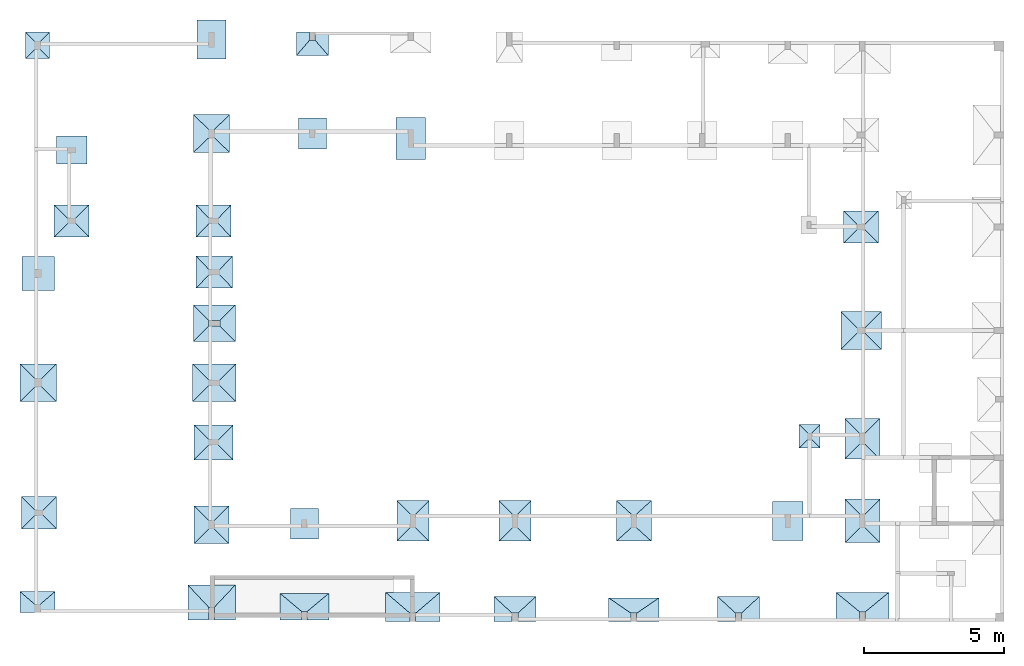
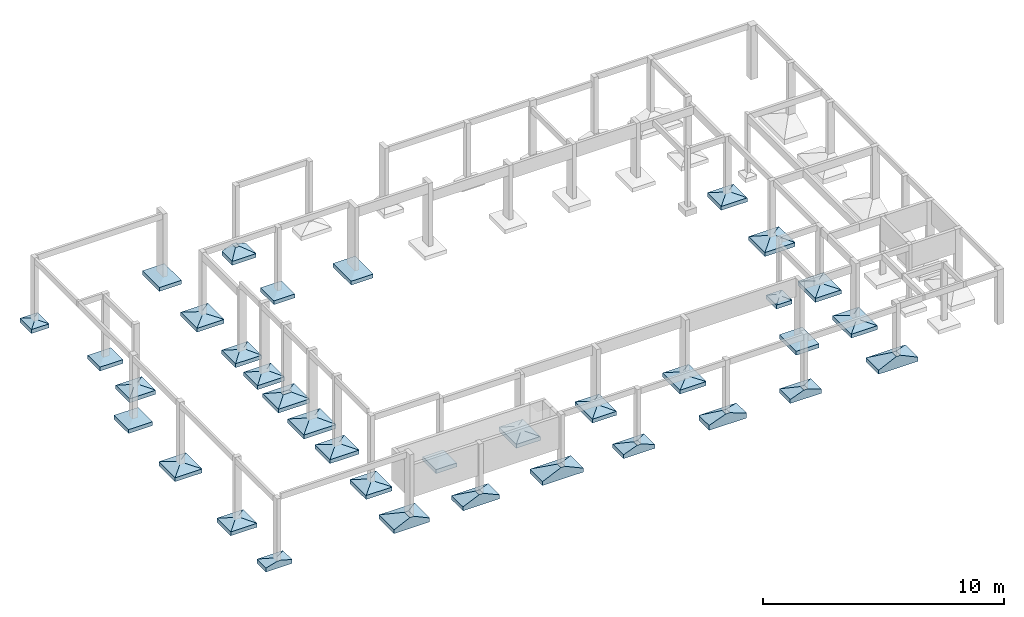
# One storey, part 4 of 5: 35 footings.
"""IFC4 building model written with IfcOpenShell, lengths in centimetres."""

from ifc_helpers import new_model, si_unit, derived_unit, frame, origin_with_axes, place, context, project, spatial, faceted_brep, material, element, save


model = new_model("IFC4")

# Units and contexts
model_context = context("Model", 3, precision=1e-05, world=origin_with_axes(), identifier="Body")
ifc_project = project(units=[si_unit("LENGTHUNIT", "METRE", prefix="CENTI"), si_unit("VOLUMEUNIT", "CUBIC_METRE"), si_unit("AREAUNIT", "SQUARE_METRE"), si_unit("POWERUNIT", "WATT"), si_unit("LUMINOUSFLUXUNIT", "LUMEN"), si_unit("ELECTRICCURRENTUNIT", "AMPERE"), si_unit("PRESSUREUNIT", "PASCAL", prefix="KILO"), si_unit("MASSUNIT", "GRAM", prefix="KILO"), si_unit("PLANEANGLEUNIT", "RADIAN"), derived_unit("VOLUMETRICFLOWRATEUNIT", [(si_unit("LENGTHUNIT", "METRE"), 3), (si_unit("TIMEUNIT", "SECOND"), -1)])], contexts=[model_context])

# Site, building, storey
site_placement = place(None, origin_with_axes())
site = spatial("IfcSite", under=ifc_project, at=site_placement)
building_placement = place(site_placement, frame((0.0, 0.0, -295.0)))
building = spatial("IfcBuilding", under=site, at=building_placement)
placement_1 = place(building_placement, origin_with_axes())
placement_2 = place(placement_1, frame((0.0, 0.0, 101.0), z_axis=(0.0, 0.0, 1.0), x_axis=(1.0, 0.0, 0.0)))
storey_placement = place(placement_2, frame((0.0, 0.0, 204.0), z_axis=(0.0, 0.0, 1.0), x_axis=(1.0, 0.0, 0.0)))
storey = spatial("IfcBuildingStorey", under=building, at=storey_placement, Name="TÉRREO", CompositionType="ELEMENT", Elevation=10.0)

# Footings
ifc_material = material(Name="Concreto")
footing_1_placement = place(storey_placement, frame((561.73, -5119.55, -320.0), z_axis=(0.0, 0.0, 1.0), x_axis=(1.0, 0.0, 0.0)))
element("IfcFooting", 1, at=footing_1_placement, inside=storey, material=ifc_material, Name="P1", PredefinedType="PAD_FOOTING", context=model_context, shape_type="SolidModel", body=[
    faceted_brep([(-42.5, 47.5, -30.0), (42.5, 47.5, -30.0), (42.5, -47.5, -30.0), (-42.5, -47.5, -30.0), (-42.5, -47.5, -10.0), (42.5, -47.5, -10.0), (42.5, 47.5, -10.0), (-42.5, 47.5, -10.0)], [[[0, 1, 2, 3]], [[4, 5, 6, 7]], [[4, 3, 5]], [[3, 2, 5]], [[5, 2, 6]], [[2, 1, 6]], [[6, 1, 7]], [[1, 0, 7]], [[7, 0, 4]], [[0, 3, 4]]]),
    faceted_brep([(-42.5, 47.5, -10.0), (42.5, 47.5, -10.0), (42.5, -47.5, -10.0), (-42.5, -47.5, -10.0), (-10.0, -15.0, 0.0), (10.0, -15.0, 0.0), (10.0, 15.0, 0.0), (-10.0, 15.0, 0.0)], [[[0, 1, 2, 3]], [[4, 5, 6, 7]], [[4, 3, 5]], [[3, 2, 5]], [[5, 2, 6]], [[2, 1, 6]], [[6, 1, 7]], [[1, 0, 7]], [[7, 0, 4]], [[0, 3, 4]]]),
])
footing_2_placement = place(storey_placement, frame((1183.9, -5434.69, -315.0), z_axis=(0.0, 0.0, 1.0), x_axis=(1.0, 0.0, 0.0)))
element("IfcFooting", 2, at=footing_2_placement, inside=storey, material=ifc_material, Name="P11", PredefinedType="PAD_FOOTING", context=model_context, shape_type="SolidModel", body=[
    faceted_brep([(-65.0, 67.5, -35.0), (65.0, 67.5, -35.0), (65.0, -67.5, -35.0), (-65.0, -67.5, -35.0), (-65.0, -67.5, -15.0), (65.0, -67.5, -15.0), (65.0, 67.5, -15.0), (-65.0, 67.5, -15.0)], [[[0, 1, 2, 3]], [[4, 5, 6, 7]], [[4, 3, 5]], [[3, 2, 5]], [[5, 2, 6]], [[2, 1, 6]], [[6, 1, 7]], [[1, 0, 7]], [[7, 0, 4]], [[0, 3, 4]]]),
    faceted_brep([(-65.0, 67.5, -15.0), (65.0, 67.5, -15.0), (65.0, -67.5, -15.0), (-65.0, -67.5, -15.0), (-10.0, -15.0, 0.0), (10.0, -15.0, 0.0), (10.0, 15.0, 0.0), (-10.0, 15.0, 0.0)], [[[0, 1, 2, 3]], [[4, 5, 6, 7]], [[4, 3, 5]], [[3, 2, 5]], [[5, 2, 6]], [[2, 1, 6]], [[6, 1, 7]], [[1, 0, 7]], [[7, 0, 4]], [[0, 3, 4]]]),
])
footing_3_placement = place(storey_placement, frame((1544.4, -5434.69, -320.0), z_axis=(0.0, 0.0, 1.0), x_axis=(1.0, 0.0, 0.0)))
element("IfcFooting", 3, at=footing_3_placement, inside=storey, material=ifc_material, Name="P12", PredefinedType="PAD_FOOTING", context=model_context, shape_type="SolidModel", body=[
    faceted_brep([(-50.0, 55.0, -30.0), (50.0, 55.0, -30.0), (50.0, -55.0, -30.0), (-50.0, -55.0, -30.0), (-50.0, -55.0, -10.0), (50.0, -55.0, -10.0), (50.0, 55.0, -10.0), (-50.0, 55.0, -10.0)], [[[0, 1, 2, 3]], [[4, 5, 6, 7]], [[4, 3, 5]], [[3, 2, 5]], [[5, 2, 6]], [[2, 1, 6]], [[6, 1, 7]], [[1, 0, 7]], [[7, 0, 4]], [[0, 3, 4]]]),
    faceted_brep([(-50.0, 55.0, -10.0), (50.0, 55.0, -10.0), (50.0, -55.0, -10.0), (-50.0, -55.0, -10.0), (-10.0, -15.0, 0.0), (10.0, -15.0, 0.0), (10.0, 15.0, 0.0), (-10.0, 15.0, 0.0)], [[[0, 1, 2, 3]], [[4, 5, 6, 7]], [[4, 3, 5]], [[3, 2, 5]], [[5, 2, 6]], [[2, 1, 6]], [[6, 1, 7]], [[1, 0, 7]], [[7, 0, 4]], [[0, 3, 4]]]),
])
footing_4_placement = place(storey_placement, frame((1895.85, -5452.19, -320.0), z_axis=(0.0, 0.0, 1.0), x_axis=(1.0, 0.0, 0.0)))
element("IfcFooting", 4, at=footing_4_placement, inside=storey, material=ifc_material, Name="P13", PredefinedType="PAD_FOOTING", context=model_context, shape_type="SolidModel", body=[
    faceted_brep([(-52.5, 75.0, -30.0), (52.5, 75.0, -30.0), (52.5, -75.0, -30.0), (-52.5, -75.0, -30.0), (-52.5, -75.0, -10.0), (52.5, -75.0, -10.0), (52.5, 75.0, -10.0), (-52.5, 75.0, -10.0)], [[[0, 1, 2, 3]], [[4, 5, 6, 7]], [[4, 3, 5]], [[3, 2, 5]], [[5, 2, 6]], [[2, 1, 6]], [[6, 1, 7]], [[1, 0, 7]], [[7, 0, 4]], [[0, 3, 4]]]),
    faceted_brep([(-52.5, 75.0, -10.0), (52.5, 75.0, -10.0), (52.5, -75.0, -10.0), (-52.5, -75.0, -10.0), (-10.0, -32.5, 0.0), (10.0, -32.5, 0.0), (10.0, 32.5, 0.0), (-10.0, 32.5, 0.0)], [[[0, 1, 2, 3]], [[4, 5, 6, 7]], [[4, 3, 5]], [[3, 2, 5]], [[5, 2, 6]], [[2, 1, 6]], [[6, 1, 7]], [[1, 0, 7]], [[7, 0, 4]], [[0, 3, 4]]]),
])
footing_5_placement = place(storey_placement, frame((1183.9, -5098.61, -320.0), z_axis=(0.0, 0.0, 1.0), x_axis=(1.0, 0.0, 0.0)))
element("IfcFooting", 5, at=footing_5_placement, inside=storey, material=ifc_material, Name="P2", PredefinedType="PAD_FOOTING", context=model_context, shape_type="SolidModel", body=[
    faceted_brep([(-52.5, 70.0, -30.0), (52.5, 70.0, -30.0), (52.5, -70.0, -30.0), (-52.5, -70.0, -30.0), (-52.5, -70.0, -10.0), (52.5, -70.0, -10.0), (52.5, 70.0, -10.0), (-52.5, 70.0, -10.0)], [[[0, 1, 2, 3]], [[4, 5, 6, 7]], [[4, 3, 5]], [[3, 2, 5]], [[5, 2, 6]], [[2, 1, 6]], [[6, 1, 7]], [[1, 0, 7]], [[7, 0, 4]], [[0, 3, 4]]]),
    faceted_brep([(-52.5, 70.0, -10.0), (52.5, 70.0, -10.0), (52.5, -70.0, -10.0), (-52.5, -70.0, -10.0), (-10.0, -27.5, 0.0), (10.0, -27.5, 0.0), (10.0, 27.5, 0.0), (-10.0, 27.5, 0.0)], [[[0, 1, 2, 3]], [[4, 5, 6, 7]], [[4, 3, 5]], [[3, 2, 5]], [[5, 2, 6]], [[2, 1, 6]], [[6, 1, 7]], [[1, 0, 7]], [[7, 0, 4]], [[0, 3, 4]]]),
])
footing_6_placement = place(storey_placement, frame((683.93, -5494.16, -320.0), z_axis=(0.0, 0.0, 1.0), x_axis=(1.0, 0.0, 0.0)))
element("IfcFooting", 6, at=footing_6_placement, inside=storey, material=ifc_material, Name="P20", PredefinedType="PAD_FOOTING", context=model_context, shape_type="SolidModel", body=[
    faceted_brep([(-55.0, -50.0, -30.0), (-55.0, 50.0, -30.0), (55.0, 50.0, -30.0), (55.0, -50.0, -30.0), (55.0, -50.0, -10.0), (55.0, 50.0, -10.0), (-55.0, 50.0, -10.0), (-55.0, -50.0, -10.0)], [[[0, 1, 2, 3]], [[4, 5, 6, 7]], [[4, 3, 5]], [[3, 2, 5]], [[5, 2, 6]], [[2, 1, 6]], [[6, 1, 7]], [[1, 0, 7]], [[7, 0, 4]], [[0, 3, 4]]]),
    faceted_brep([(-55.0, -50.0, -10.0), (-55.0, 50.0, -10.0), (55.0, 50.0, -10.0), (55.0, -50.0, -10.0), (15.0, -10.0, 0.0), (15.0, 10.0, 0.0), (-15.0, 10.0, 0.0), (-15.0, -10.0, 0.0)], [[[0, 1, 2, 3]], [[4, 5, 6, 7]], [[4, 3, 5]], [[3, 2, 5]], [[5, 2, 6]], [[2, 1, 6]], [[6, 1, 7]], [[1, 0, 7]], [[7, 0, 4]], [[0, 3, 4]]]),
])
footing_7_placement = place(storey_placement, frame((683.93, -5746.84, -315.0), z_axis=(0.0, 0.0, 1.0), x_axis=(1.0, 0.0, 0.0)))
element("IfcFooting", 7, at=footing_7_placement, inside=storey, material=ifc_material, Name="P22", PredefinedType="PAD_FOOTING", context=model_context, shape_type="SolidModel", body=[
    faceted_brep([(-62.5, -57.5, -35.0), (-62.5, 57.5, -35.0), (62.5, 57.5, -35.0), (62.5, -57.5, -35.0), (62.5, -57.5, -15.0), (62.5, 57.5, -15.0), (-62.5, 57.5, -15.0), (-62.5, -57.5, -15.0)], [[[0, 1, 2, 3]], [[4, 5, 6, 7]], [[4, 3, 5]], [[3, 2, 5]], [[5, 2, 6]], [[2, 1, 6]], [[6, 1, 7]], [[1, 0, 7]], [[7, 0, 4]], [[0, 3, 4]]]),
    faceted_brep([(-62.5, -57.5, -15.0), (-62.5, 57.5, -15.0), (62.5, 57.5, -15.0), (62.5, -57.5, -15.0), (15.0, -10.0, 0.0), (15.0, 10.0, 0.0), (-15.0, 10.0, 0.0), (-15.0, -10.0, 0.0)], [[[0, 1, 2, 3]], [[4, 5, 6, 7]], [[4, 3, 5]], [[3, 2, 5]], [[5, 2, 6]], [[2, 1, 6]], [[6, 1, 7]], [[1, 0, 7]], [[7, 0, 4]], [[0, 3, 4]]]),
])
footing_8_placement = place(storey_placement, frame((1191.4, -5746.84, -315.0), z_axis=(0.0, 0.0, 1.0), x_axis=(1.0, 0.0, 0.0)))
element("IfcFooting", 8, at=footing_8_placement, inside=storey, material=ifc_material, Name="P23", PredefinedType="PAD_FOOTING", context=model_context, shape_type="SolidModel", body=[
    faceted_brep([(-62.5, -57.5, -35.0), (-62.5, 57.5, -35.0), (62.5, 57.5, -35.0), (62.5, -57.5, -35.0), (62.5, -57.5, -15.0), (62.5, 57.5, -15.0), (-62.5, 57.5, -15.0), (-62.5, -57.5, -15.0)], [[[0, 1, 2, 3]], [[4, 5, 6, 7]], [[4, 3, 5]], [[3, 2, 5]], [[5, 2, 6]], [[2, 1, 6]], [[6, 1, 7]], [[1, 0, 7]], [[7, 0, 4]], [[0, 3, 4]]]),
    faceted_brep([(-62.5, -57.5, -15.0), (-62.5, 57.5, -15.0), (62.5, 57.5, -15.0), (62.5, -57.5, -15.0), (17.5, -10.0, 0.0), (17.5, 10.0, 0.0), (-17.5, 10.0, 0.0), (-17.5, -10.0, 0.0)], [[[0, 1, 2, 3]], [[4, 5, 6, 7]], [[4, 3, 5]], [[3, 2, 5]], [[5, 2, 6]], [[2, 1, 6]], [[6, 1, 7]], [[1, 0, 7]], [[7, 0, 4]], [[0, 3, 4]]]),
])
footing_9_placement = place(storey_placement, frame((3505.73, -5768.55, -315.0), z_axis=(0.0, 0.0, 1.0), x_axis=(1.0, 0.0, 0.0)))
element("IfcFooting", 9, at=footing_9_placement, inside=storey, material=ifc_material, Name="P25", PredefinedType="PAD_FOOTING", context=model_context, shape_type="SolidModel", body=[
    faceted_brep([(62.5, 57.5, -35.0), (62.5, -57.5, -35.0), (-62.5, -57.5, -35.0), (-62.5, 57.5, -35.0), (-62.5, 57.5, -15.0), (-62.5, -57.5, -15.0), (62.5, -57.5, -15.0), (62.5, 57.5, -15.0)], [[[0, 1, 2, 3]], [[4, 5, 6, 7]], [[4, 3, 5]], [[3, 2, 5]], [[5, 2, 6]], [[2, 1, 6]], [[6, 1, 7]], [[1, 0, 7]], [[7, 0, 4]], [[0, 3, 4]]]),
    faceted_brep([(62.5, 57.5, -15.0), (62.5, -57.5, -15.0), (-62.5, -57.5, -15.0), (-62.5, 57.5, -15.0), (-15.0, 10.0, 0.0), (-15.0, -10.0, 0.0), (15.0, -10.0, 0.0), (15.0, 10.0, 0.0)], [[[0, 1, 2, 3]], [[4, 5, 6, 7]], [[4, 3, 5]], [[3, 2, 5]], [[5, 2, 6]], [[2, 1, 6]], [[6, 1, 7]], [[1, 0, 7]], [[7, 0, 4]], [[0, 3, 4]]]),
])
footing_10_placement = place(storey_placement, frame((564.23, -5934.85, -320.0), z_axis=(0.0, 0.0, 1.0), x_axis=(1.0, 0.0, 0.0)))
element("IfcFooting", 10, at=footing_10_placement, inside=storey, material=ifc_material, Name="P27", PredefinedType="PAD_FOOTING", context=model_context, shape_type="SolidModel", body=[
    faceted_brep([(-57.5, 60.0, -30.0), (57.5, 60.0, -30.0), (57.5, -60.0, -30.0), (-57.5, -60.0, -30.0), (-57.5, -60.0, -10.0), (57.5, -60.0, -10.0), (57.5, 60.0, -10.0), (-57.5, 60.0, -10.0)], [[[0, 1, 2, 3]], [[4, 5, 6, 7]], [[4, 3, 5]], [[3, 2, 5]], [[5, 2, 6]], [[2, 1, 6]], [[6, 1, 7]], [[1, 0, 7]], [[7, 0, 4]], [[0, 3, 4]]]),
    faceted_brep([(-57.5, 60.0, -10.0), (57.5, 60.0, -10.0), (57.5, -60.0, -10.0), (-57.5, -60.0, -10.0), (-12.5, -15.0, 0.0), (12.5, -15.0, 0.0), (12.5, 15.0, 0.0), (-12.5, 15.0, 0.0)], [[[0, 1, 2, 3]], [[4, 5, 6, 7]], [[4, 3, 5]], [[3, 2, 5]], [[5, 2, 6]], [[2, 1, 6]], [[6, 1, 7]], [[1, 0, 7]], [[7, 0, 4]], [[0, 3, 4]]]),
])
footing_11_placement = place(storey_placement, frame((1193.9, -5929.85, -315.0), z_axis=(0.0, 0.0, 1.0), x_axis=(1.0, 0.0, 0.0)))
element("IfcFooting", 11, at=footing_11_placement, inside=storey, material=ifc_material, Name="P28", PredefinedType="PAD_FOOTING", context=model_context, shape_type="SolidModel", body=[
    faceted_brep([(65.0, 57.5, -35.0), (65.0, -57.5, -35.0), (-65.0, -57.5, -35.0), (-65.0, 57.5, -35.0), (-65.0, 57.5, -15.0), (-65.0, -57.5, -15.0), (65.0, -57.5, -15.0), (65.0, 57.5, -15.0)], [[[0, 1, 2, 3]], [[4, 5, 6, 7]], [[4, 3, 5]], [[3, 2, 5]], [[5, 2, 6]], [[2, 1, 6]], [[6, 1, 7]], [[1, 0, 7]], [[7, 0, 4]], [[0, 3, 4]]]),
    faceted_brep([(65.0, 57.5, -15.0), (65.0, -57.5, -15.0), (-65.0, -57.5, -15.0), (-65.0, 57.5, -15.0), (-20.0, 10.0, 0.0), (-20.0, -10.0, 0.0), (20.0, -10.0, 0.0), (20.0, 10.0, 0.0)], [[[0, 1, 2, 3]], [[4, 5, 6, 7]], [[4, 3, 5]], [[3, 2, 5]], [[5, 2, 6]], [[2, 1, 6]], [[6, 1, 7]], [[1, 0, 7]], [[7, 0, 4]], [[0, 3, 4]]]),
])
footing_12_placement = place(storey_placement, frame((1193.9, -6112.7, -310.0), z_axis=(0.0, 0.0, 1.0), x_axis=(1.0, 0.0, 0.0)))
element("IfcFooting", 12, at=footing_12_placement, inside=storey, material=ifc_material, Name="P29", PredefinedType="PAD_FOOTING", context=model_context, shape_type="SolidModel", body=[
    faceted_brep([(-75.0, -65.0, -40.0), (-75.0, 65.0, -40.0), (75.0, 65.0, -40.0), (75.0, -65.0, -40.0), (75.0, -65.0, -20.0), (75.0, 65.0, -20.0), (-75.0, 65.0, -20.0), (-75.0, -65.0, -20.0)], [[[0, 1, 2, 3]], [[4, 5, 6, 7]], [[4, 3, 5]], [[3, 2, 5]], [[5, 2, 6]], [[2, 1, 6]], [[6, 1, 7]], [[1, 0, 7]], [[7, 0, 4]], [[0, 3, 4]]]),
    faceted_brep([(-75.0, -65.0, -20.0), (-75.0, 65.0, -20.0), (75.0, 65.0, -20.0), (75.0, -65.0, -20.0), (20.0, -10.0, 0.0), (20.0, 10.0, 0.0), (-20.0, 10.0, 0.0), (-20.0, -10.0, 0.0)], [[[0, 1, 2, 3]], [[4, 5, 6, 7]], [[4, 3, 5]], [[3, 2, 5]], [[5, 2, 6]], [[2, 1, 6]], [[6, 1, 7]], [[1, 0, 7]], [[7, 0, 4]], [[0, 3, 4]]]),
])
footing_13_placement = place(storey_placement, frame((1544.4, -5113.61, -310.0), z_axis=(0.0, 0.0, 1.0), x_axis=(1.0, 0.0, 0.0)))
element("IfcFooting", 13, at=footing_13_placement, inside=storey, material=ifc_material, Name="P3", PredefinedType="PAD_FOOTING", context=model_context, shape_type="SolidModel", body=[
    faceted_brep([(-57.5, 42.5, -40.0), (57.5, 42.5, -40.0), (57.5, -42.5, -40.0), (-57.5, -42.5, -40.0), (-57.5, -42.5, -20.0), (57.5, -42.5, -20.0), (57.5, 42.5, -20.0), (-57.5, 42.5, -20.0)], [[[0, 1, 2, 3]], [[4, 5, 6, 7]], [[4, 3, 5]], [[3, 2, 5]], [[5, 2, 6]], [[2, 1, 6]], [[6, 1, 7]], [[1, 0, 7]], [[7, 0, 4]], [[0, 3, 4]]]),
    faceted_brep([(-57.5, 42.5, -20.0), (57.5, 42.5, -20.0), (57.5, -42.5, -20.0), (-57.5, -42.5, -20.0), (-10.0, 12.5, 0.0), (10.0, 12.5, 0.0), (10.0, 42.5, 0.0), (-10.0, 42.5, 0.0)], [[[0, 1, 2, 3]], [[4, 5, 6, 7]], [[4, 3, 5]], [[3, 2, 5]], [[5, 2, 6]], [[2, 1, 6]], [[6, 1, 7]], [[1, 0, 7]], [[7, 0, 4]], [[0, 3, 4]]]),
])
footing_14_placement = place(storey_placement, frame((3505.73, -6138.55, -310.0), z_axis=(0.0, 0.0, 1.0), x_axis=(1.0, 0.0, 0.0)))
element("IfcFooting", 14, at=footing_14_placement, inside=storey, material=ifc_material, Name="P30", PredefinedType="PAD_FOOTING", context=model_context, shape_type="SolidModel", body=[
    faceted_brep([(72.5, 67.5, -40.0), (72.5, -67.5, -40.0), (-72.5, -67.5, -40.0), (-72.5, 67.5, -40.0), (-72.5, 67.5, -20.0), (-72.5, -67.5, -20.0), (72.5, -67.5, -20.0), (72.5, 67.5, -20.0)], [[[0, 1, 2, 3]], [[4, 5, 6, 7]], [[4, 3, 5]], [[3, 2, 5]], [[5, 2, 6]], [[2, 1, 6]], [[6, 1, 7]], [[1, 0, 7]], [[7, 0, 4]], [[0, 3, 4]]]),
    faceted_brep([(72.5, 67.5, -20.0), (72.5, -67.5, -20.0), (-72.5, -67.5, -20.0), (-72.5, 67.5, -20.0), (-15.0, 10.0, 0.0), (-15.0, -10.0, 0.0), (15.0, -10.0, 0.0), (15.0, 10.0, 0.0)], [[[0, 1, 2, 3]], [[4, 5, 6, 7]], [[4, 3, 5]], [[3, 2, 5]], [[5, 2, 6]], [[2, 1, 6]], [[6, 1, 7]], [[1, 0, 7]], [[7, 0, 4]], [[0, 3, 4]]]),
])
footing_15_placement = place(storey_placement, frame((564.23, -6325.62, -315.0), z_axis=(0.0, 0.0, 1.0), x_axis=(1.0, 0.0, 0.0)))
element("IfcFooting", 15, at=footing_15_placement, inside=storey, material=ifc_material, Name="P32", PredefinedType="PAD_FOOTING", context=model_context, shape_type="SolidModel", body=[
    faceted_brep([(-65.0, 67.5, -35.0), (65.0, 67.5, -35.0), (65.0, -67.5, -35.0), (-65.0, -67.5, -35.0), (-65.0, -67.5, -15.0), (65.0, -67.5, -15.0), (65.0, 67.5, -15.0), (-65.0, 67.5, -15.0)], [[[0, 1, 2, 3]], [[4, 5, 6, 7]], [[4, 3, 5]], [[3, 2, 5]], [[5, 2, 6]], [[2, 1, 6]], [[6, 1, 7]], [[1, 0, 7]], [[7, 0, 4]], [[0, 3, 4]]]),
    faceted_brep([(-65.0, 67.5, -15.0), (65.0, 67.5, -15.0), (65.0, -67.5, -15.0), (-65.0, -67.5, -15.0), (-12.5, -15.0, 0.0), (12.5, -15.0, 0.0), (12.5, 15.0, 0.0), (-12.5, 15.0, 0.0)], [[[0, 1, 2, 3]], [[4, 5, 6, 7]], [[4, 3, 5]], [[3, 2, 5]], [[5, 2, 6]], [[2, 1, 6]], [[6, 1, 7]], [[1, 0, 7]], [[7, 0, 4]], [[0, 3, 4]]]),
])
footing_16_placement = place(storey_placement, frame((1193.9, -6325.62, -310.0), z_axis=(0.0, 0.0, 1.0), x_axis=(1.0, 0.0, 0.0)))
element("IfcFooting", 16, at=footing_16_placement, inside=storey, material=ifc_material, Name="P33", PredefinedType="PAD_FOOTING", context=model_context, shape_type="SolidModel", body=[
    faceted_brep([(-77.5, -67.5, -40.0), (-77.5, 67.5, -40.0), (77.5, 67.5, -40.0), (77.5, -67.5, -40.0), (77.5, -67.5, -20.0), (77.5, 67.5, -20.0), (-77.5, 67.5, -20.0), (-77.5, -67.5, -20.0)], [[[0, 1, 2, 3]], [[4, 5, 6, 7]], [[4, 3, 5]], [[3, 2, 5]], [[5, 2, 6]], [[2, 1, 6]], [[6, 1, 7]], [[1, 0, 7]], [[7, 0, 4]], [[0, 3, 4]]]),
    faceted_brep([(-77.5, -67.5, -20.0), (-77.5, 67.5, -20.0), (77.5, 67.5, -20.0), (77.5, -67.5, -20.0), (20.0, -10.0, 0.0), (20.0, 10.0, 0.0), (-20.0, 10.0, 0.0), (-20.0, -10.0, 0.0)], [[[0, 1, 2, 3]], [[4, 5, 6, 7]], [[4, 3, 5]], [[3, 2, 5]], [[5, 2, 6]], [[2, 1, 6]], [[6, 1, 7]], [[1, 0, 7]], [[7, 0, 4]], [[0, 3, 4]]]),
])
footing_17_placement = place(storey_placement, frame((1191.4, -6538.55, -315.0), z_axis=(0.0, 0.0, 1.0), x_axis=(1.0, 0.0, 0.0)))
element("IfcFooting", 17, at=footing_17_placement, inside=storey, material=ifc_material, Name="P35", PredefinedType="PAD_FOOTING", context=model_context, shape_type="SolidModel", body=[
    faceted_brep([(-70.0, -62.5, -35.0), (-70.0, 62.5, -35.0), (70.0, 62.5, -35.0), (70.0, -62.5, -35.0), (70.0, -62.5, -15.0), (70.0, 62.5, -15.0), (-70.0, 62.5, -15.0), (-70.0, -62.5, -15.0)], [[[0, 1, 2, 3]], [[4, 5, 6, 7]], [[4, 3, 5]], [[3, 2, 5]], [[5, 2, 6]], [[2, 1, 6]], [[6, 1, 7]], [[1, 0, 7]], [[7, 0, 4]], [[0, 3, 4]]]),
    faceted_brep([(-70.0, -62.5, -15.0), (-70.0, 62.5, -15.0), (70.0, 62.5, -15.0), (70.0, -62.5, -15.0), (17.5, -10.0, 0.0), (17.5, 10.0, 0.0), (-17.5, 10.0, 0.0), (-17.5, -10.0, 0.0)], [[[0, 1, 2, 3]], [[4, 5, 6, 7]], [[4, 3, 5]], [[3, 2, 5]], [[5, 2, 6]], [[2, 1, 6]], [[6, 1, 7]], [[1, 0, 7]], [[7, 0, 4]], [[0, 3, 4]]]),
])
footing_18_placement = place(storey_placement, frame((3322.23, -6516.7, -320.0), z_axis=(0.0, 0.0, 1.0), x_axis=(1.0, 0.0, 0.0)))
element("IfcFooting", 18, at=footing_18_placement, inside=storey, material=ifc_material, Name="P36", PredefinedType="PAD_FOOTING", context=model_context, shape_type="SolidModel", body=[
    faceted_brep([(-37.5, 42.5, -30.0), (37.5, 42.5, -30.0), (37.5, -42.5, -30.0), (-37.5, -42.5, -30.0), (-37.5, -42.5, -10.0), (37.5, -42.5, -10.0), (37.5, 42.5, -10.0), (-37.5, 42.5, -10.0)], [[[0, 1, 2, 3]], [[4, 5, 6, 7]], [[4, 3, 5]], [[3, 2, 5]], [[5, 2, 6]], [[2, 1, 6]], [[6, 1, 7]], [[1, 0, 7]], [[7, 0, 4]], [[0, 3, 4]]]),
    faceted_brep([(-37.5, 42.5, -10.0), (37.5, 42.5, -10.0), (37.5, -42.5, -10.0), (-37.5, -42.5, -10.0), (-7.5, -12.5, 0.0), (7.5, -12.5, 0.0), (7.5, 12.5, 0.0), (-7.5, 12.5, 0.0)], [[[0, 1, 2, 3]], [[4, 5, 6, 7]], [[4, 3, 5]], [[3, 2, 5]], [[5, 2, 6]], [[2, 1, 6]], [[6, 1, 7]], [[1, 0, 7]], [[7, 0, 4]], [[0, 3, 4]]]),
])
footing_19_placement = place(storey_placement, frame((3510.73, -6525.55, -315.0), z_axis=(0.0, 0.0, 1.0), x_axis=(1.0, 0.0, 0.0)))
element("IfcFooting", 19, at=footing_19_placement, inside=storey, material=ifc_material, Name="P37", PredefinedType="PAD_FOOTING", context=model_context, shape_type="SolidModel", body=[
    faceted_brep([(-62.5, 72.5, -35.0), (62.5, 72.5, -35.0), (62.5, -72.5, -35.0), (-62.5, -72.5, -35.0), (-62.5, -72.5, -15.0), (62.5, -72.5, -15.0), (62.5, 72.5, -15.0), (-62.5, 72.5, -15.0)], [[[0, 1, 2, 3]], [[4, 5, 6, 7]], [[4, 3, 5]], [[3, 2, 5]], [[5, 2, 6]], [[2, 1, 6]], [[6, 1, 7]], [[1, 0, 7]], [[7, 0, 4]], [[0, 3, 4]]]),
    faceted_brep([(-62.5, 72.5, -15.0), (62.5, 72.5, -15.0), (62.5, -72.5, -15.0), (-62.5, -72.5, -15.0), (-10.0, -20.0, 0.0), (10.0, -20.0, 0.0), (10.0, 20.0, 0.0), (-10.0, 20.0, 0.0)], [[[0, 1, 2, 3]], [[4, 5, 6, 7]], [[4, 3, 5]], [[3, 2, 5]], [[5, 2, 6]], [[2, 1, 6]], [[6, 1, 7]], [[1, 0, 7]], [[7, 0, 4]], [[0, 3, 4]]]),
])
footing_20_placement = place(storey_placement, frame((566.73, -6790.04, -315.0), z_axis=(0.0, 0.0, 1.0), x_axis=(1.0, 0.0, 0.0)))
element("IfcFooting", 20, at=footing_20_placement, inside=storey, material=ifc_material, Name="P40", PredefinedType="PAD_FOOTING", context=model_context, shape_type="SolidModel", body=[
    faceted_brep([(-62.5, -57.5, -35.0), (-62.5, 57.5, -35.0), (62.5, 57.5, -35.0), (62.5, -57.5, -35.0), (62.5, -57.5, -15.0), (62.5, 57.5, -15.0), (-62.5, 57.5, -15.0), (-62.5, -57.5, -15.0)], [[[0, 1, 2, 3]], [[4, 5, 6, 7]], [[4, 3, 5]], [[3, 2, 5]], [[5, 2, 6]], [[2, 1, 6]], [[6, 1, 7]], [[1, 0, 7]], [[7, 0, 4]], [[0, 3, 4]]]),
    faceted_brep([(-62.5, -57.5, -15.0), (-62.5, 57.5, -15.0), (62.5, 57.5, -15.0), (62.5, -57.5, -15.0), (15.0, -10.0, 0.0), (15.0, 10.0, 0.0), (-15.0, 10.0, 0.0), (-15.0, -10.0, 0.0)], [[[0, 1, 2, 3]], [[4, 5, 6, 7]], [[4, 3, 5]], [[3, 2, 5]], [[5, 2, 6]], [[2, 1, 6]], [[6, 1, 7]], [[1, 0, 7]], [[7, 0, 4]], [[0, 3, 4]]]),
])
footing_21_placement = place(storey_placement, frame((1183.9, -6833.35, -315.0), z_axis=(0.0, 0.0, 1.0), x_axis=(1.0, 0.0, 0.0)))
element("IfcFooting", 21, at=footing_21_placement, inside=storey, material=ifc_material, Name="P41", PredefinedType="PAD_FOOTING", context=model_context, shape_type="SolidModel", body=[
    faceted_brep([(-62.5, 67.5, -35.0), (62.5, 67.5, -35.0), (62.5, -67.5, -35.0), (-62.5, -67.5, -35.0), (-62.5, -67.5, -15.0), (62.5, -67.5, -15.0), (62.5, 67.5, -15.0), (-62.5, 67.5, -15.0)], [[[0, 1, 2, 3]], [[4, 5, 6, 7]], [[4, 3, 5]], [[3, 2, 5]], [[5, 2, 6]], [[2, 1, 6]], [[6, 1, 7]], [[1, 0, 7]], [[7, 0, 4]], [[0, 3, 4]]]),
    faceted_brep([(-62.5, 67.5, -15.0), (62.5, 67.5, -15.0), (62.5, -67.5, -15.0), (-62.5, -67.5, -15.0), (-10.0, -15.0, 0.0), (10.0, -15.0, 0.0), (10.0, 15.0, 0.0), (-10.0, 15.0, 0.0)], [[[0, 1, 2, 3]], [[4, 5, 6, 7]], [[4, 3, 5]], [[3, 2, 5]], [[5, 2, 6]], [[2, 1, 6]], [[6, 1, 7]], [[1, 0, 7]], [[7, 0, 4]], [[0, 3, 4]]]),
])
footing_22_placement = place(storey_placement, frame((1515.96, -6829.2, -320.0), z_axis=(0.0, 0.0, 1.0), x_axis=(1.0, 0.0, 0.0)))
element("IfcFooting", 22, at=footing_22_placement, inside=storey, material=ifc_material, Name="P42", PredefinedType="PAD_FOOTING", context=model_context, shape_type="SolidModel", body=[
    faceted_brep([(-50.0, 55.0, -30.0), (50.0, 55.0, -30.0), (50.0, -55.0, -30.0), (-50.0, -55.0, -30.0), (-50.0, -55.0, -10.0), (50.0, -55.0, -10.0), (50.0, 55.0, -10.0), (-50.0, 55.0, -10.0)], [[[0, 1, 2, 3]], [[4, 5, 6, 7]], [[4, 3, 5]], [[3, 2, 5]], [[5, 2, 6]], [[2, 1, 6]], [[6, 1, 7]], [[1, 0, 7]], [[7, 0, 4]], [[0, 3, 4]]]),
    faceted_brep([(-50.0, 55.0, -10.0), (50.0, 55.0, -10.0), (50.0, -55.0, -10.0), (-50.0, -55.0, -10.0), (-10.0, -15.0, 0.0), (10.0, -15.0, 0.0), (10.0, 15.0, 0.0), (-10.0, 15.0, 0.0)], [[[0, 1, 2, 3]], [[4, 5, 6, 7]], [[4, 3, 5]], [[3, 2, 5]], [[5, 2, 6]], [[2, 1, 6]], [[6, 1, 7]], [[1, 0, 7]], [[7, 0, 4]], [[0, 3, 4]]]),
])
for number, where, z_axis, x_axis, name in (
    (23, (1903.6, -6819.2, -315.0), (0.0, 0.0, 1.0), (1.0, 0.0, 0.0), "P43"),
    (24, (2268.73, -6819.2, -315.0), (0.0, 0.0, 1.0), (1.0, 0.0, 0.0), "P44"),
):
    element("IfcFooting", number, at=place(storey_placement, frame(where, z_axis=z_axis, x_axis=x_axis)), inside=storey, material=ifc_material, Name=name, PredefinedType="PAD_FOOTING", context=model_context, shape_type="SolidModel", body=[
        faceted_brep([(-57.5, 72.5, -35.0), (57.5, 72.5, -35.0), (57.5, -72.5, -35.0), (-57.5, -72.5, -35.0), (-57.5, -72.5, -15.0), (57.5, -72.5, -15.0), (57.5, 72.5, -15.0), (-57.5, 72.5, -15.0)], [[[0, 1, 2, 3]], [[4, 5, 6, 7]], [[4, 3, 5]], [[3, 2, 5]], [[5, 2, 6]], [[2, 1, 6]], [[6, 1, 7]], [[1, 0, 7]], [[7, 0, 4]], [[0, 3, 4]]]),
        faceted_brep([(-57.5, 72.5, -15.0), (57.5, 72.5, -15.0), (57.5, -72.5, -15.0), (-57.5, -72.5, -15.0), (-10.0, -25.0, 0.0), (10.0, -25.0, 0.0), (10.0, 25.0, 0.0), (-10.0, 25.0, 0.0)], [[[0, 1, 2, 3]], [[4, 5, 6, 7]], [[4, 3, 5]], [[3, 2, 5]], [[5, 2, 6]], [[2, 1, 6]], [[6, 1, 7]], [[1, 0, 7]], [[7, 0, 4]], [[0, 3, 4]]]),
    ])
footing_23_placement = place(storey_placement, frame((2693.6, -6819.2, -315.0), z_axis=(0.0, 0.0, 1.0), x_axis=(1.0, 0.0, 0.0)))
element("IfcFooting", 25, at=footing_23_placement, inside=storey, material=ifc_material, Name="P45", PredefinedType="PAD_FOOTING", context=model_context, shape_type="SolidModel", body=[
    faceted_brep([(-62.5, 72.5, -35.0), (62.5, 72.5, -35.0), (62.5, -72.5, -35.0), (-62.5, -72.5, -35.0), (-62.5, -72.5, -15.0), (62.5, -72.5, -15.0), (62.5, 72.5, -15.0), (-62.5, 72.5, -15.0)], [[[0, 1, 2, 3]], [[4, 5, 6, 7]], [[4, 3, 5]], [[3, 2, 5]], [[5, 2, 6]], [[2, 1, 6]], [[6, 1, 7]], [[1, 0, 7]], [[7, 0, 4]], [[0, 3, 4]]]),
    faceted_brep([(-62.5, 72.5, -15.0), (62.5, 72.5, -15.0), (62.5, -72.5, -15.0), (-62.5, -72.5, -15.0), (-10.0, -25.0, 0.0), (10.0, -25.0, 0.0), (10.0, 25.0, 0.0), (-10.0, 25.0, 0.0)], [[[0, 1, 2, 3]], [[4, 5, 6, 7]], [[4, 3, 5]], [[3, 2, 5]], [[5, 2, 6]], [[2, 1, 6]], [[6, 1, 7]], [[1, 0, 7]], [[7, 0, 4]], [[0, 3, 4]]]),
])
footing_24_placement = place(storey_placement, frame((3243.73, -6819.2, -320.0), z_axis=(0.0, 0.0, 1.0), x_axis=(1.0, 0.0, 0.0)))
element("IfcFooting", 26, at=footing_24_placement, inside=storey, material=ifc_material, Name="P46", PredefinedType="PAD_FOOTING", context=model_context, shape_type="SolidModel", body=[
    faceted_brep([(-55.0, 70.0, -30.0), (55.0, 70.0, -30.0), (55.0, -70.0, -30.0), (-55.0, -70.0, -30.0), (-55.0, -70.0, -10.0), (55.0, -70.0, -10.0), (55.0, 70.0, -10.0), (-55.0, 70.0, -10.0)], [[[0, 1, 2, 3]], [[4, 5, 6, 7]], [[4, 3, 5]], [[3, 2, 5]], [[5, 2, 6]], [[2, 1, 6]], [[6, 1, 7]], [[1, 0, 7]], [[7, 0, 4]], [[0, 3, 4]]]),
    faceted_brep([(-55.0, 70.0, -10.0), (55.0, 70.0, -10.0), (55.0, -70.0, -10.0), (-55.0, -70.0, -10.0), (-10.0, -25.0, 0.0), (10.0, -25.0, 0.0), (10.0, 25.0, 0.0), (-10.0, 25.0, 0.0)], [[[0, 1, 2, 3]], [[4, 5, 6, 7]], [[4, 3, 5]], [[3, 2, 5]], [[5, 2, 6]], [[2, 1, 6]], [[6, 1, 7]], [[1, 0, 7]], [[7, 0, 4]], [[0, 3, 4]]]),
])
footing_25_placement = place(storey_placement, frame((3510.73, -6819.2, -315.0), z_axis=(0.0, 0.0, 1.0), x_axis=(1.0, 0.0, 0.0)))
element("IfcFooting", 27, at=footing_25_placement, inside=storey, material=ifc_material, Name="P47", PredefinedType="PAD_FOOTING", context=model_context, shape_type="SolidModel", body=[
    faceted_brep([(-62.5, 77.5, -35.0), (62.5, 77.5, -35.0), (62.5, -77.5, -35.0), (-62.5, -77.5, -35.0), (-62.5, -77.5, -15.0), (62.5, -77.5, -15.0), (62.5, 77.5, -15.0), (-62.5, 77.5, -15.0)], [[[0, 1, 2, 3]], [[4, 5, 6, 7]], [[4, 3, 5]], [[3, 2, 5]], [[5, 2, 6]], [[2, 1, 6]], [[6, 1, 7]], [[1, 0, 7]], [[7, 0, 4]], [[0, 3, 4]]]),
    faceted_brep([(-62.5, 77.5, -15.0), (62.5, 77.5, -15.0), (62.5, -77.5, -15.0), (-62.5, -77.5, -15.0), (-10.0, -25.0, 0.0), (10.0, -25.0, 0.0), (10.0, 25.0, 0.0), (-10.0, 25.0, 0.0)], [[[0, 1, 2, 3]], [[4, 5, 6, 7]], [[4, 3, 5]], [[3, 2, 5]], [[5, 2, 6]], [[2, 1, 6]], [[6, 1, 7]], [[1, 0, 7]], [[7, 0, 4]], [[0, 3, 4]]]),
])
footing_26_placement = place(storey_placement, frame((561.73, -7109.7, -315.0), z_axis=(0.0, 0.0, 1.0), x_axis=(1.0, 0.0, 0.0)))
element("IfcFooting", 28, at=footing_26_placement, inside=storey, material=ifc_material, Name="P51", PredefinedType="PAD_FOOTING", context=model_context, shape_type="SolidModel", body=[
    faceted_brep([(62.5, -37.5, -35.0), (-62.5, -37.5, -35.0), (-62.5, 37.5, -35.0), (62.5, 37.5, -35.0), (62.5, 37.5, -15.0), (-62.5, 37.5, -15.0), (-62.5, -37.5, -15.0), (62.5, -37.5, -15.0)], [[[0, 1, 2, 3]], [[4, 5, 6, 7]], [[4, 3, 5]], [[3, 2, 5]], [[5, 2, 6]], [[2, 1, 6]], [[6, 1, 7]], [[1, 0, 7]], [[7, 0, 4]], [[0, 3, 4]]]),
    faceted_brep([(62.5, -37.5, -15.0), (-62.5, -37.5, -15.0), (-62.5, 37.5, -15.0), (62.5, 37.5, -15.0), (10.0, -7.5, 0.0), (-10.0, -7.5, 0.0), (-10.0, -37.5, 0.0), (10.0, -37.5, 0.0)], [[[0, 1, 2, 3]], [[4, 5, 6, 7]], [[4, 3, 5]], [[3, 2, 5]], [[5, 2, 6]], [[2, 1, 6]], [[6, 1, 7]], [[1, 0, 7]], [[7, 0, 4]], [[0, 3, 4]]]),
])
footing_27_placement = place(storey_placement, frame((1183.9, -7110.43, -295.0), z_axis=(0.0, 0.0, 1.0), x_axis=(1.0, 0.0, 0.0)))
element("IfcFooting", 29, at=footing_27_placement, inside=storey, material=ifc_material, Name="P52", PredefinedType="PAD_FOOTING", context=model_context, shape_type="SolidModel", body=[
    faceted_brep([(85.0, -62.5, -55.0), (-85.0, -62.5, -55.0), (-85.0, 62.5, -55.0), (85.0, 62.5, -55.0), (85.0, 62.5, -35.0), (-85.0, 62.5, -35.0), (-85.0, -62.5, -35.0), (85.0, -62.5, -35.0)], [[[0, 1, 2, 3]], [[4, 5, 6, 7]], [[4, 3, 5]], [[3, 2, 5]], [[5, 2, 6]], [[2, 1, 6]], [[6, 1, 7]], [[1, 0, 7]], [[7, 0, 4]], [[0, 3, 4]]]),
    faceted_brep([(85.0, -62.5, -35.0), (-85.0, -62.5, -35.0), (-85.0, 62.5, -35.0), (85.0, 62.5, -35.0), (10.0, -17.5, 0.0), (-10.0, -17.5, 0.0), (-10.0, -62.5, 0.0), (10.0, -62.5, 0.0)], [[[0, 1, 2, 3]], [[4, 5, 6, 7]], [[4, 3, 5]], [[3, 2, 5]], [[5, 2, 6]], [[2, 1, 6]], [[6, 1, 7]], [[1, 0, 7]], [[7, 0, 4]], [[0, 3, 4]]]),
])
footing_28_placement = place(storey_placement, frame((1515.96, -7125.43, -295.0), z_axis=(0.0, 0.0, 1.0), x_axis=(1.0, 0.0, 0.0)))
element("IfcFooting", 30, at=footing_28_placement, inside=storey, material=ifc_material, Name="P53", PredefinedType="PAD_FOOTING", context=model_context, shape_type="SolidModel", body=[
    faceted_brep([(87.5, -47.5, -55.0), (-87.5, -47.5, -55.0), (-87.5, 47.5, -55.0), (87.5, 47.5, -55.0), (87.5, 47.5, -35.0), (-87.5, 47.5, -35.0), (-87.5, -47.5, -35.0), (87.5, -47.5, -35.0)], [[[0, 1, 2, 3]], [[4, 5, 6, 7]], [[4, 3, 5]], [[3, 2, 5]], [[5, 2, 6]], [[2, 1, 6]], [[6, 1, 7]], [[1, 0, 7]], [[7, 0, 4]], [[0, 3, 4]]]),
    faceted_brep([(87.5, -47.5, -35.0), (-87.5, -47.5, -35.0), (-87.5, 47.5, -35.0), (87.5, 47.5, -35.0), (10.0, -17.5, 0.0), (-10.0, -17.5, 0.0), (-10.0, -47.5, 0.0), (10.0, -47.5, 0.0)], [[[0, 1, 2, 3]], [[4, 5, 6, 7]], [[4, 3, 5]], [[3, 2, 5]], [[5, 2, 6]], [[2, 1, 6]], [[6, 1, 7]], [[1, 0, 7]], [[7, 0, 4]], [[0, 3, 4]]]),
])
footing_29_placement = place(storey_placement, frame((1903.6, -7126.81, -290.0), z_axis=(0.0, 0.0, 1.0), x_axis=(1.0, 0.0, 0.0)))
element("IfcFooting", 31, at=footing_29_placement, inside=storey, material=ifc_material, Name="P54", PredefinedType="PAD_FOOTING", context=model_context, shape_type="SolidModel", body=[
    faceted_brep([(97.5, -52.5, -60.0), (-97.5, -52.5, -60.0), (-97.5, 52.5, -60.0), (97.5, 52.5, -60.0), (97.5, 52.5, -40.0), (-97.5, 52.5, -40.0), (-97.5, -52.5, -40.0), (97.5, -52.5, -40.0)], [[[0, 1, 2, 3]], [[4, 5, 6, 7]], [[4, 3, 5]], [[3, 2, 5]], [[5, 2, 6]], [[2, 1, 6]], [[6, 1, 7]], [[1, 0, 7]], [[7, 0, 4]], [[0, 3, 4]]]),
    faceted_brep([(97.5, -52.5, -40.0), (-97.5, -52.5, -40.0), (-97.5, 52.5, -40.0), (97.5, 52.5, -40.0), (10.0, -22.5, 0.0), (-10.0, -22.5, 0.0), (-10.0, -52.5, 0.0), (10.0, -52.5, 0.0)], [[[0, 1, 2, 3]], [[4, 5, 6, 7]], [[4, 3, 5]], [[3, 2, 5]], [[5, 2, 6]], [[2, 1, 6]], [[6, 1, 7]], [[1, 0, 7]], [[7, 0, 4]], [[0, 3, 4]]]),
])
footing_30_placement = place(storey_placement, frame((2268.73, -7134.31, -305.0), z_axis=(0.0, 0.0, 1.0), x_axis=(1.0, 0.0, 0.0)))
element("IfcFooting", 32, at=footing_30_placement, inside=storey, material=ifc_material, Name="P55", PredefinedType="PAD_FOOTING", context=model_context, shape_type="SolidModel", body=[
    faceted_brep([(75.0, -45.0, -45.0), (-75.0, -45.0, -45.0), (-75.0, 45.0, -45.0), (75.0, 45.0, -45.0), (75.0, 45.0, -25.0), (-75.0, 45.0, -25.0), (-75.0, -45.0, -25.0), (75.0, -45.0, -25.0)], [[[0, 1, 2, 3]], [[4, 5, 6, 7]], [[4, 3, 5]], [[3, 2, 5]], [[5, 2, 6]], [[2, 1, 6]], [[6, 1, 7]], [[1, 0, 7]], [[7, 0, 4]], [[0, 3, 4]]]),
    faceted_brep([(75.0, -45.0, -25.0), (-75.0, -45.0, -25.0), (-75.0, 45.0, -25.0), (75.0, 45.0, -25.0), (10.0, -15.0, 0.0), (-10.0, -15.0, 0.0), (-10.0, -45.0, 0.0), (10.0, -45.0, 0.0)], [[[0, 1, 2, 3]], [[4, 5, 6, 7]], [[4, 3, 5]], [[3, 2, 5]], [[5, 2, 6]], [[2, 1, 6]], [[6, 1, 7]], [[1, 0, 7]], [[7, 0, 4]], [[0, 3, 4]]]),
])
footing_31_placement = place(storey_placement, frame((2693.6, -7136.81, -295.0), z_axis=(0.0, 0.0, 1.0), x_axis=(1.0, 0.0, 0.0)))
element("IfcFooting", 33, at=footing_31_placement, inside=storey, material=ifc_material, Name="P56", PredefinedType="PAD_FOOTING", context=model_context, shape_type="SolidModel", body=[
    faceted_brep([(90.0, -42.5, -55.0), (-90.0, -42.5, -55.0), (-90.0, 42.5, -55.0), (90.0, 42.5, -55.0), (90.0, 42.5, -30.0), (-90.0, 42.5, -30.0), (-90.0, -42.5, -30.0), (90.0, -42.5, -30.0)], [[[0, 1, 2, 3]], [[4, 5, 6, 7]], [[4, 3, 5]], [[3, 2, 5]], [[5, 2, 6]], [[2, 1, 6]], [[6, 1, 7]], [[1, 0, 7]], [[7, 0, 4]], [[0, 3, 4]]]),
    faceted_brep([(90.0, -42.5, -30.0), (-90.0, -42.5, -30.0), (-90.0, 42.5, -30.0), (90.0, 42.5, -30.0), (10.0, -12.5, 0.0), (-10.0, -12.5, 0.0), (-10.0, -42.5, 0.0), (10.0, -42.5, 0.0)], [[[0, 1, 2, 3]], [[4, 5, 6, 7]], [[4, 3, 5]], [[3, 2, 5]], [[5, 2, 6]], [[2, 1, 6]], [[6, 1, 7]], [[1, 0, 7]], [[7, 0, 4]], [[0, 3, 4]]]),
])
footing_32_placement = place(storey_placement, frame((3067.54, -7134.31, -305.0), z_axis=(0.0, 0.0, 1.0), x_axis=(1.0, 0.0, 0.0)))
element("IfcFooting", 34, at=footing_32_placement, inside=storey, material=ifc_material, Name="P57", PredefinedType="PAD_FOOTING", context=model_context, shape_type="SolidModel", body=[
    faceted_brep([(75.0, -45.0, -45.0), (-75.0, -45.0, -45.0), (-75.0, 45.0, -45.0), (75.0, 45.0, -45.0), (75.0, 45.0, -25.0), (-75.0, 45.0, -25.0), (-75.0, -45.0, -25.0), (75.0, -45.0, -25.0)], [[[0, 1, 2, 3]], [[4, 5, 6, 7]], [[4, 3, 5]], [[3, 2, 5]], [[5, 2, 6]], [[2, 1, 6]], [[6, 1, 7]], [[1, 0, 7]], [[7, 0, 4]], [[0, 3, 4]]]),
    faceted_brep([(75.0, -45.0, -25.0), (-75.0, -45.0, -25.0), (-75.0, 45.0, -25.0), (75.0, 45.0, -25.0), (10.0, -15.0, 0.0), (-10.0, -15.0, 0.0), (-10.0, -45.0, 0.0), (10.0, -45.0, 0.0)], [[[0, 1, 2, 3]], [[4, 5, 6, 7]], [[4, 3, 5]], [[3, 2, 5]], [[5, 2, 6]], [[2, 1, 6]], [[6, 1, 7]], [[1, 0, 7]], [[7, 0, 4]], [[0, 3, 4]]]),
])
footing_33_placement = place(storey_placement, frame((3510.73, -7126.81, -290.0), z_axis=(0.0, 0.0, 1.0), x_axis=(1.0, 0.0, 0.0)))
element("IfcFooting", 35, at=footing_33_placement, inside=storey, material=ifc_material, Name="P58", PredefinedType="PAD_FOOTING", context=model_context, shape_type="SolidModel", body=[
    faceted_brep([(95.0, -52.5, -60.0), (-95.0, -52.5, -60.0), (-95.0, 52.5, -60.0), (95.0, 52.5, -60.0), (95.0, 52.5, -40.0), (-95.0, 52.5, -40.0), (-95.0, -52.5, -40.0), (95.0, -52.5, -40.0)], [[[0, 1, 2, 3]], [[4, 5, 6, 7]], [[4, 3, 5]], [[3, 2, 5]], [[5, 2, 6]], [[2, 1, 6]], [[6, 1, 7]], [[1, 0, 7]], [[7, 0, 4]], [[0, 3, 4]]]),
    faceted_brep([(95.0, -52.5, -40.0), (-95.0, -52.5, -40.0), (-95.0, 52.5, -40.0), (95.0, 52.5, -40.0), (10.0, -17.5, 0.0), (-10.0, -17.5, 0.0), (-10.0, -52.5, 0.0), (10.0, -52.5, 0.0)], [[[0, 1, 2, 3]], [[4, 5, 6, 7]], [[4, 3, 5]], [[3, 2, 5]], [[5, 2, 6]], [[2, 1, 6]], [[6, 1, 7]], [[1, 0, 7]], [[7, 0, 4]], [[0, 3, 4]]]),
])

save(model, "model.ifc")
